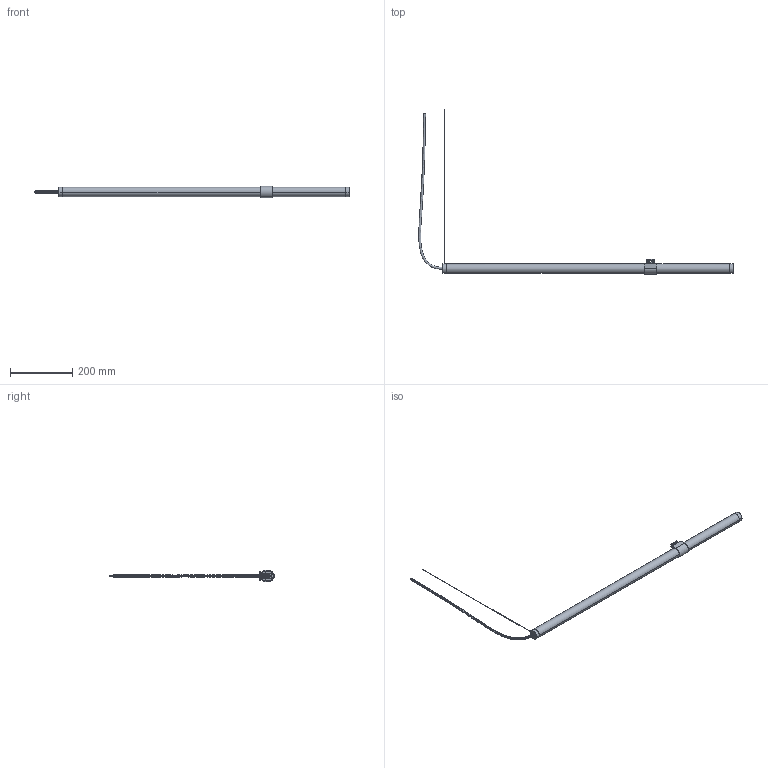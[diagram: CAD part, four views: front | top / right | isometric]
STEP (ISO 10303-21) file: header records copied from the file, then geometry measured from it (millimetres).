
FILE_DESCRIPTION (( 'STEP AP214' ), '1' );
FILE_NAME ('ACTUXCXXEXLA1XX.STEP', '2023-08-29T07:44:36', ( '' ), ( '' ), 'SwSTEP 2.0', 'SolidWorks 2023', '' );
FILE_SCHEMA (( 'AUTOMOTIVE_DESIGN' ));
Length unit declared in the file: millimetre
Products named in the file (7): WSCA01193000B2830B; ACCAVOEL2X001XX; WSCP2E0046-1400-00; WSCP2E0048-1400-00; ACTUXCXXEXLA1XX; WSCP2E0004-1400-02; WSVBPAR091225XX-00
Assembly tree (6 placements, depth 2):
  ACTUXCXXEXLA1XX
    WSVBPAR091225XX-00
    WSCP2E0004-1400-02
    WSCP2E0048-1400-00
    WSCA01193000B2830B
    WSCP2E0046-1400-00
    ACCAVOEL2X001XX
Bounding box: 1013.73 x 529.6 x 36.2 mm (x, y, z)
Volume: 258245.5 mm3; surface area: 212146.9 mm2
Topology: 13 solids, 13 shells, 1003 faces, 2312 edges, 1262 vertices
Faces by surface type: bspline 444, cylinder 405, plane 144, cone 10
Entity records: 45944 total; most frequent: CARTESIAN_POINT 25846, ORIENTED_EDGE 4476, DIRECTION 3838, EDGE_CURVE 2238, AXIS2_PLACEMENT_3D 1553, VERTEX_POINT 1262, EDGE_LOOP 1036, FACE_OUTER_BOUND 1003
